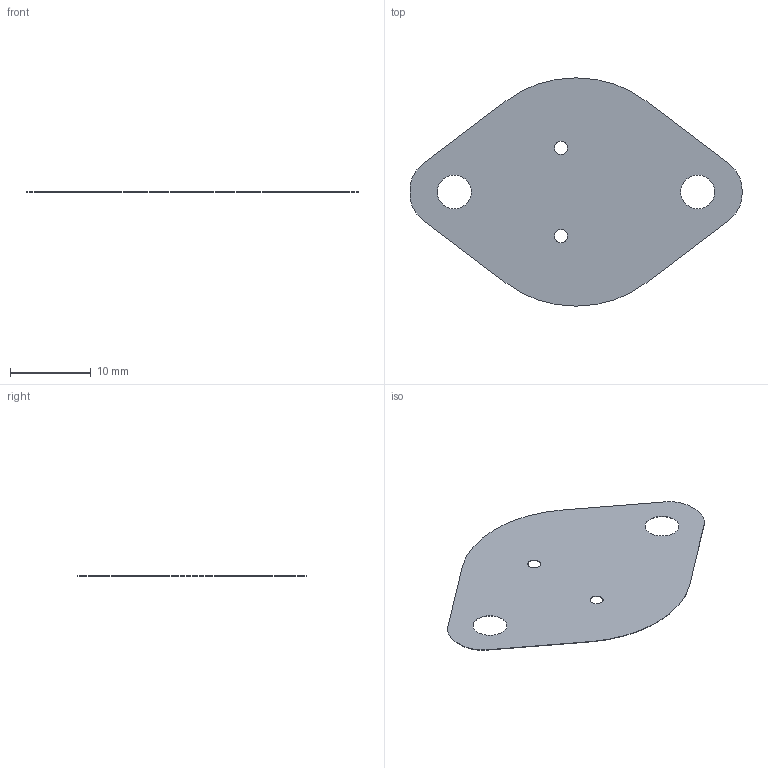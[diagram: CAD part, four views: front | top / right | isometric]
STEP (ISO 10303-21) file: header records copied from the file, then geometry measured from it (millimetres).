
FILE_DESCRIPTION (( 'STEP AP214' ), '1' );
FILE_NAME ('GL 510.STEP', '2004-04-06T12:50:59', ( '' ), ( '' ), 'SwSTEP 2.0', 'SolidWorks 2002349', '' );
FILE_SCHEMA (( 'AUTOMOTIVE_DESIGN' ));
Length unit declared in the file: millimetre
Products named in the file (1): GL 510
Bounding box: 41.05 x 28.2 x 0.05 mm (x, y, z)
Volume: 37.2 mm3; surface area: 1495.2 mm2
Topology: 1 solids, 1 shells, 26 faces, 72 edges, 48 vertices
Faces by surface type: cylinder 16, plane 10
Entity records: 887 total; most frequent: DIRECTION 158, CARTESIAN_POINT 147, ORIENTED_EDGE 144, EDGE_CURVE 72, AXIS2_PLACEMENT_3D 59, VERTEX_POINT 48, LINE 40, VECTOR 40
